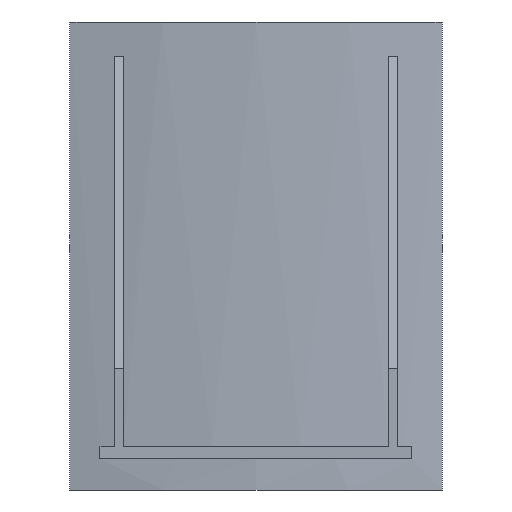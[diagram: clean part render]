
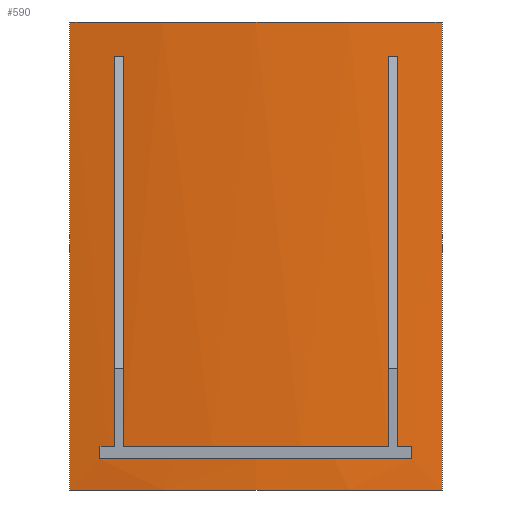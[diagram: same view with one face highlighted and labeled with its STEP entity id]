
A CAD part, left-side view. The second image highlights one B-rep face of the part: STEP entity #590.
In plain terms, the highlighted cylindrical face has radius 1243 mm (diameter 2486 mm), a partial arc.
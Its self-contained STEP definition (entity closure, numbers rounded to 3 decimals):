
#19=FACE_BOUND('',#107,.T.);
#71=FACE_OUTER_BOUND('',#106,.T.);
#106=EDGE_LOOP('',(#528,#529,#530,#531));
#107=EDGE_LOOP('',(#532,#533,#534,#535,#536,#537,#538,#539,#540,#541));
#165=LINE('',#955,#231);
#167=LINE('',#959,#233);
#171=LINE('',#970,#237);
#172=LINE('',#976,#238);
#173=LINE('',#977,#239);
#174=LINE('',#978,#240);
#231=VECTOR('',#785,10.);
#233=VECTOR('',#789,10.);
#237=VECTOR('',#799,10.);
#238=VECTOR('',#806,10.);
#239=VECTOR('',#807,10.);
#240=VECTOR('',#808,10.);
#252=CIRCLE('',#643,1243.);
#253=CIRCLE('',#645,1243.);
#254=CIRCLE('',#647,1243.);
#255=CIRCLE('',#651,1243.);
#256=CIRCLE('',#654,1243.);
#257=CIRCLE('',#655,1243.);
#288=VERTEX_POINT('',#902);
#289=VERTEX_POINT('',#904);
#296=VERTEX_POINT('',#923);
#297=VERTEX_POINT('',#925);
#300=VERTEX_POINT('',#943);
#301=VERTEX_POINT('',#947);
#302=VERTEX_POINT('',#953);
#303=VERTEX_POINT('',#957);
#304=VERTEX_POINT('',#963);
#307=VERTEX_POINT('',#968);
#308=VERTEX_POINT('',#972);
#309=VERTEX_POINT('',#974);
#370=EDGE_CURVE('',#300,#288,#252,.T.);
#373=EDGE_CURVE('',#297,#301,#253,.T.);
#374=EDGE_CURVE('',#288,#297,#254,.T.);
#376=EDGE_CURVE('',#301,#302,#165,.T.);
#378=EDGE_CURVE('',#303,#300,#167,.T.);
#379=EDGE_CURVE('',#302,#303,#255,.T.);
#383=EDGE_CURVE('',#304,#307,#171,.T.);
#384=EDGE_CURVE('',#308,#304,#256,.T.);
#385=EDGE_CURVE('',#309,#307,#257,.T.);
#386=EDGE_CURVE('',#308,#309,#172,.T.);
#387=EDGE_CURVE('',#288,#289,#173,.T.);
#388=EDGE_CURVE('',#297,#296,#174,.T.);
#528=ORIENTED_EDGE('',*,*,#384,.T.);
#529=ORIENTED_EDGE('',*,*,#383,.T.);
#530=ORIENTED_EDGE('',*,*,#385,.F.);
#531=ORIENTED_EDGE('',*,*,#386,.F.);
#532=ORIENTED_EDGE('',*,*,#378,.T.);
#533=ORIENTED_EDGE('',*,*,#370,.T.);
#534=ORIENTED_EDGE('',*,*,#387,.T.);
#535=ORIENTED_EDGE('',*,*,#387,.F.);
#536=ORIENTED_EDGE('',*,*,#374,.T.);
#537=ORIENTED_EDGE('',*,*,#388,.T.);
#538=ORIENTED_EDGE('',*,*,#388,.F.);
#539=ORIENTED_EDGE('',*,*,#373,.T.);
#540=ORIENTED_EDGE('',*,*,#376,.T.);
#541=ORIENTED_EDGE('',*,*,#379,.T.);
#562=CYLINDRICAL_SURFACE('',#653,1243.);
#590=ADVANCED_FACE('',(#71,#19),#562,.T.);
#643=AXIS2_PLACEMENT_3D('',#944,#770,#771);
#645=AXIS2_PLACEMENT_3D('',#949,#776,#777);
#647=AXIS2_PLACEMENT_3D('',#951,#780,#781);
#651=AXIS2_PLACEMENT_3D('',#961,#792,#793);
#653=AXIS2_PLACEMENT_3D('',#971,#800,#801);
#654=AXIS2_PLACEMENT_3D('',#973,#802,#803);
#655=AXIS2_PLACEMENT_3D('',#975,#804,#805);
#770=DIRECTION('center_axis',(0.,0.,1.));
#771=DIRECTION('ref_axis',(-0.981,0.192,0.));
#776=DIRECTION('center_axis',(0.,0.,1.));
#777=DIRECTION('ref_axis',(-0.981,0.192,0.));
#780=DIRECTION('center_axis',(0.,0.,1.));
#781=DIRECTION('ref_axis',(-0.981,0.192,0.));
#785=DIRECTION('',(0.,0.,-1.));
#789=DIRECTION('',(0.,0.,1.));
#792=DIRECTION('center_axis',(0.,0.,-1.));
#793=DIRECTION('ref_axis',(-0.981,0.192,0.));
#799=DIRECTION('',(0.,0.,1.));
#800=DIRECTION('center_axis',(0.,0.,1.));
#801=DIRECTION('ref_axis',(-0.981,0.192,0.));
#802=DIRECTION('center_axis',(0.,0.,1.));
#803=DIRECTION('ref_axis',(-0.981,0.192,0.));
#804=DIRECTION('center_axis',(0.,0.,1.));
#805=DIRECTION('ref_axis',(-0.981,0.192,0.));
#806=DIRECTION('',(0.,0.,1.));
#807=DIRECTION('',(0.,0.,1.));
#808=DIRECTION('',(0.,0.,1.));
#902=CARTESIAN_POINT('',(-1231.32,170.,56.));
#904=CARTESIAN_POINT('',(-1231.32,170.,556.));
#923=CARTESIAN_POINT('',(-1231.32,-170.,556.));
#925=CARTESIAN_POINT('',(-1231.32,-170.,56.));
#943=CARTESIAN_POINT('',(-1226.804,200.,56.));
#944=CARTESIAN_POINT('Origin',(0.,0.,56.));
#947=CARTESIAN_POINT('',(-1226.804,-200.,56.));
#949=CARTESIAN_POINT('Origin',(0.,0.,56.));
#951=CARTESIAN_POINT('Origin',(0.,0.,56.));
#953=CARTESIAN_POINT('',(-1226.804,-200.,40.));
#955=CARTESIAN_POINT('',(-1226.804,-200.,0.));
#957=CARTESIAN_POINT('',(-1226.804,200.,40.));
#959=CARTESIAN_POINT('',(-1226.804,200.,0.));
#961=CARTESIAN_POINT('Origin',(0.,0.,40.));
#963=CARTESIAN_POINT('',(-1219.902,-238.512,0.));
#968=CARTESIAN_POINT('',(-1219.902,-238.512,600.));
#970=CARTESIAN_POINT('',(-1219.902,-238.512,0.));
#971=CARTESIAN_POINT('Origin',(0.,0.,0.));
#972=CARTESIAN_POINT('',(-1219.902,238.512,0.));
#973=CARTESIAN_POINT('Origin',(0.,0.,0.));
#974=CARTESIAN_POINT('',(-1219.902,238.512,600.));
#975=CARTESIAN_POINT('Origin',(0.,0.,600.));
#976=CARTESIAN_POINT('',(-1219.902,238.512,0.));
#977=CARTESIAN_POINT('',(-1231.32,170.,0.));
#978=CARTESIAN_POINT('',(-1231.32,-170.,0.));
